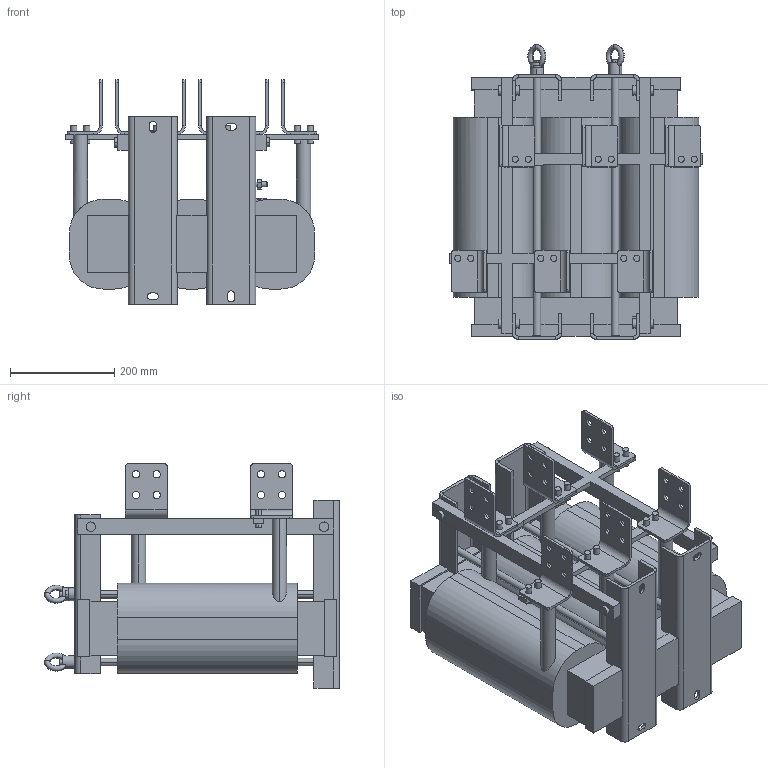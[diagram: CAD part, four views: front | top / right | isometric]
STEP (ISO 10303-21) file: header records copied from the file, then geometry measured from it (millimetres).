
FILE_DESCRIPTION (( 'STEP AP214' ), '1' );
FILE_NAME ('00Z20X0-0032.STEP', '2022-10-19T09:55:22', ( '' ), ( '' ), 'SwSTEP 2.0', 'SolidWorks 2022', '' );
FILE_SCHEMA (( 'AUTOMOTIVE_DESIGN' ));
Length unit declared in the file: centimetre
Products named in the file (1): 00Z20X0-0032
Bounding box: 486 x 565 x 430 mm (x, y, z)
Volume: 32736406 mm3; surface area: 1655186.8 mm2
Topology: 1 solids, 1 shells, 694 faces, 1811 edges, 1149 vertices
Faces by surface type: plane 411, cylinder 252, torus 16, bspline 13, cone 2
Entity records: 23309 total; most frequent: CARTESIAN_POINT 5670, ORIENTED_EDGE 3622, DIRECTION 3598, EDGE_CURVE 1811, AXIS2_PLACEMENT_3D 1239, VERTEX_POINT 1149, LINE 1120, VECTOR 1120
